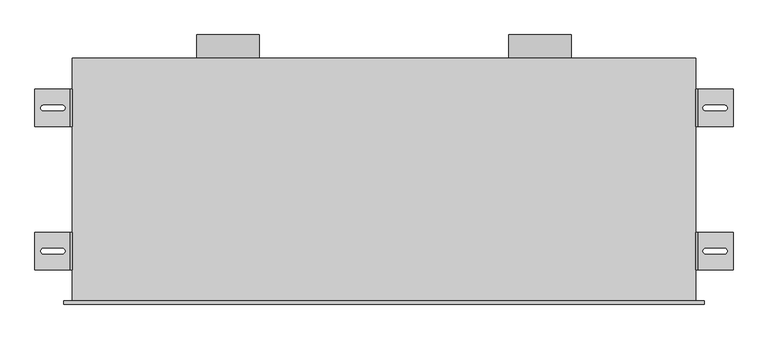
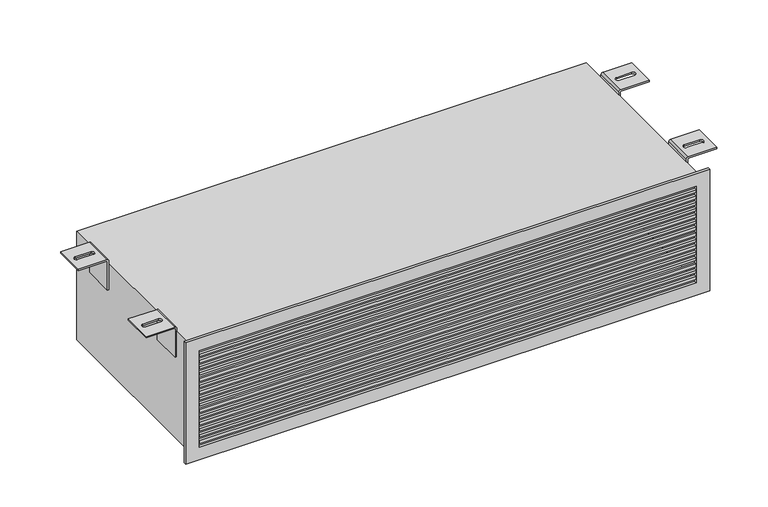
"""IFC4 building model written with IfcOpenShell, lengths in millimetres: air terminal geometry, EOL - Mural - 2 piquages : EOL-M2x100-1000x225-2."""

from ifc_helpers import new_model, si_unit, point, frame, frame_2d, origin, place, context, project, spatial, polyline, circle_curve, ellipse_curve, trimmed, segment, composite_curve, outline, extrude, source, transform, mapped, element, save
from ifc_brep_helpers import plane_surface, cylinder_surface, revolved_surface, extruded_surface, advanced_brep


def air_terminal_9427a1d9(model_context):
    return source(origin(), model_context, "Body", "SolidModel", [
        advanced_brep(
        [(504.0013366, 110.0, 121.5), (560.0, 110.0, 121.5), (560.0, 110.0, 118.5), (504.0, 110.0, 118.5), (503.0, 110.0, 117.5), (503.0, 110.0, 58.5), (500.0, 110.0, 58.5), (500.0, 110.0, 117.4986634), (504.0013366, 50.0, 121.5), (500.0, 50.0, 117.4986634), (500.0, 50.0, 58.5), (503.0, 50.0, 58.5), (503.0, 50.0, 117.5), (504.0, 50.0, 118.5), (560.0, 50.0, 118.5), (560.0, 50.0, 121.5), (546.0287952, 75.4804328, 121.5), (516.0287952, 75.4804328, 121.5), (516.0287952, 84.4804328, 121.5), (546.0287952, 84.4804328, 121.5), (516.0287952, 75.4804328, 118.5), (546.0287952, 75.4804328, 118.5), (546.0287952, 84.4804328, 118.5), (516.0287952, 84.4804328, 118.5)],
        [
            (0, 1),
            (1, 2),
            (2, 3),
            (3, 4, circle_curve(frame((504.0, 110.0, 117.5), z_axis=(0.0, -1.0, 0.0), x_axis=(-1.0000000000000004, 0.0, 0.0)), 1.0)),
            (4, 5),
            (5, 6),
            (6, 7),
            (7, 0, circle_curve(frame((504.0013366, 110.0, 117.4986634), z_axis=(0.0, 1.0, 0.0), x_axis=(-1.0000000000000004, 0.0, 0.0)), 4.0013366)),
            (8, 9, circle_curve(frame((504.0013366, 50.0, 117.4986634), z_axis=(0.0, -1.0, 0.0), x_axis=(-1.0000000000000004, 0.0, 0.0)), 4.0013366)),
            (9, 10),
            (10, 11),
            (11, 12),
            (12, 13, circle_curve(frame((504.0, 50.0, 117.5), z_axis=(0.0, 1.0, 0.0), x_axis=(-1.0000000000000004, 0.0, 0.0)), 1.0)),
            (13, 14),
            (14, 15),
            (15, 8),
            (0, 8),
            (15, 1),
            (16, 17),
            (17, 18, circle_curve(frame((516.0287952, 79.9804328, 121.5), z_axis=(0.0, 0.0, -1.0), x_axis=(0.0, -1.0, 0.0)), 4.5)),
            (18, 19),
            (19, 16, circle_curve(frame((546.0287952, 79.9804328, 121.5), z_axis=(0.0, 0.0, -1.0), x_axis=(0.0, -1.0, 0.0)), 4.5)),
            (14, 2),
            (13, 3),
            (20, 21),
            (21, 22, ellipse_curve(frame((546.0287952, 79.9804328, 118.5), z_axis=(0.0, 0.0, 1.0), x_axis=(0.0, -1.0, 0.0)), 4.5, 4.5)),
            (22, 23),
            (23, 20, ellipse_curve(frame((516.0287952, 79.9804328, 118.5), z_axis=(0.0, 0.0, 1.0), x_axis=(0.0, -1.0, 0.0)), 4.5, 4.5)),
            (12, 4),
            (11, 5),
            (10, 6),
            (9, 7),
            (16, 21),
            (20, 17),
            (19, 22),
            (18, 23),
        ],
        [
            plane_surface(frame((560.0, 110.0, 121.5), z_axis=(0.0, 1.0, 0.0), x_axis=(1.0, 0.0, 0.0))),
            plane_surface(frame((560.0, 50.0, 121.5), z_axis=(0.0, -1.0, 0.0), x_axis=(-1.0, 0.0, 0.0))),
            plane_surface(frame((504.0013366, 110.0, 121.5), z_axis=(0.0, 0.0, 1.0), x_axis=(0.0, -1.0, 0.0))),
            plane_surface(frame((560.0, 110.0, 121.5), z_axis=(1.0, 0.0, 0.0), x_axis=(0.0, -1.0, 0.0))),
            plane_surface(frame((560.0, 110.0, 118.5), z_axis=(0.0, 0.0, -1.0), x_axis=(0.0, -1.0, 0.0))),
            revolved_surface(polyline([(503.0, 50.0, 117.5), (503.0, 110.00000000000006, 117.5)]), (504.0, 50.0, 117.5), (0.0, -1.0000000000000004, 0.0)),
            plane_surface(frame((503.0, 110.0, 117.5), z_axis=(1.0, 0.0, 0.0), x_axis=(0.0, -1.0, 0.0))),
            plane_surface(frame((503.0, 110.0, 58.5), z_axis=(0.0, 0.0, -1.0), x_axis=(0.0, -1.0, 0.0))),
            plane_surface(frame((500.0, 110.0, 58.5), z_axis=(-1.0, 0.0, 0.0), x_axis=(0.0, -1.0, 0.0))),
            cylinder_surface(frame((504.0013366, 50.0, 117.4986634), z_axis=(0.0, 1.0000000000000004, 0.0), x_axis=(-1.0000000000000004, 0.0, 0.0)), 4.0013366),
            plane_surface(frame((516.0287952, 75.4804328, 121.5), z_axis=(0.0, 1.0, 0.0), x_axis=(0.0, 0.0, -1.0))),
            extruded_surface(trimmed(ellipse_curve(frame((546.0287952, 79.9804328, 118.5), z_axis=(0.0, 0.0, 1.0), x_axis=(0.0, -1.0, 0.0)), 4.5, 4.5), [point((546.0287952, 75.4804328, 118.5))], [point((546.0287952, 84.4804328, 118.5))], True, "CARTESIAN"), (0.0, 0.0, -3.0), 3.0),
            plane_surface(frame((546.0287952, 84.4804328, 121.5), z_axis=(0.0, -1.0, 0.0), x_axis=(0.0, 0.0, -1.0))),
            extruded_surface(trimmed(ellipse_curve(frame((516.0287952, 79.9804328, 118.5), z_axis=(0.0, 0.0, 1.0), x_axis=(0.0, -1.0, 0.0)), 4.5, 4.5), [point((516.0287952, 84.4804328, 118.5))], [point((516.0287952, 75.4804328, 118.5))], True, "CARTESIAN"), (0.0, 0.0, -3.0), 3.0),
        ],
        [
            (0, [[1, 2, 3, 4, 5, 6, 7, 8]]),
            (1, [[9, 10, 11, 12, 13, 14, 15, 16]]),
            (2, [[-1, 17, -16, 18], [19, 20, 21, 22]]),
            (3, [[-2, -18, -15, 23]]),
            (4, [[-3, -23, -14, 24], [25, 26, 27, 28]]),
            (5, [[-4, -24, -13, 29]]),
            (6, [[-5, -29, -12, 30]]),
            (7, [[-6, -30, -11, 31]]),
            (8, [[-7, -31, -10, 32]]),
            (9, [[-8, -32, -9, -17]]),
            (10, [[33, -25, 34, -19]]),
            (11, [[-33, -22, 35, -26]]),
            (12, [[-35, -21, 36, -27]]),
            (13, [[-34, -28, -36, -20]]),
        ],
    ),
        advanced_brep(
        [(504.0013366, 340.0, 121.5), (560.0, 340.0, 121.5), (560.0, 340.0, 118.5), (504.0, 340.0, 118.5), (503.0, 340.0, 117.5), (503.0, 340.0, 58.5), (500.0, 340.0, 58.5), (500.0, 340.0, 117.4986634), (504.0013366, 280.0, 121.5), (500.0, 280.0, 117.4986634), (500.0, 280.0, 58.5), (503.0, 280.0, 58.5), (503.0, 280.0, 117.5), (504.0, 280.0, 118.5), (560.0, 280.0, 118.5), (560.0, 280.0, 121.5), (546.0287952, 305.4804328, 121.5), (516.0287952, 305.4804328, 121.5), (516.0287952, 314.4804328, 121.5), (546.0287952, 314.4804328, 121.5), (516.0287952, 305.4804328, 118.5), (546.0287952, 305.4804328, 118.5), (546.0287952, 314.4804328, 118.5), (516.0287952, 314.4804328, 118.5)],
        [
            (0, 1),
            (1, 2),
            (2, 3),
            (3, 4, circle_curve(frame((504.0, 340.0, 117.5), z_axis=(0.0, -1.0, 0.0), x_axis=(-1.0, 0.0, 0.0)), 1.0)),
            (4, 5),
            (5, 6),
            (6, 7),
            (7, 0, circle_curve(frame((504.0013366, 340.0, 117.4986634), z_axis=(0.0, 1.0, 0.0), x_axis=(-1.0, 0.0, 0.0)), 4.0013366)),
            (8, 9, circle_curve(frame((504.0013366, 280.0, 117.4986634), z_axis=(0.0, -1.0, 0.0), x_axis=(-1.0, 0.0, 0.0)), 4.0013366)),
            (9, 10),
            (10, 11),
            (11, 12),
            (12, 13, circle_curve(frame((504.0, 280.0, 117.5), z_axis=(0.0, 1.0, 0.0), x_axis=(-1.0, 0.0, 0.0)), 1.0)),
            (13, 14),
            (14, 15),
            (15, 8),
            (0, 8),
            (15, 1),
            (16, 17),
            (17, 18, circle_curve(frame((516.0287952, 309.9804328, 121.5), z_axis=(0.0, 0.0, -1.0), x_axis=(0.0, -1.0, 0.0)), 4.5)),
            (18, 19),
            (19, 16, circle_curve(frame((546.0287952, 309.9804328, 121.5), z_axis=(0.0, 0.0, -1.0), x_axis=(0.0, -1.0, 0.0)), 4.5)),
            (14, 2),
            (13, 3),
            (20, 21),
            (21, 22, ellipse_curve(frame((546.0287952, 309.9804328, 118.5), z_axis=(0.0, 0.0, 1.0), x_axis=(0.0, -1.0, 0.0)), 4.5, 4.5)),
            (22, 23),
            (23, 20, ellipse_curve(frame((516.0287952, 309.9804328, 118.5), z_axis=(0.0, 0.0, 1.0), x_axis=(0.0, -1.0, 0.0)), 4.5, 4.5)),
            (12, 4),
            (11, 5),
            (10, 6),
            (9, 7),
            (16, 21),
            (20, 17),
            (19, 22),
            (18, 23),
        ],
        [
            plane_surface(frame((560.0, 340.0, 121.5), z_axis=(0.0, 1.0, 0.0), x_axis=(1.0, 0.0, 0.0))),
            plane_surface(frame((560.0, 280.0, 121.5), z_axis=(0.0, -1.0, 0.0), x_axis=(-1.0, 0.0, 0.0))),
            plane_surface(frame((504.0013366, 340.0, 121.5), z_axis=(0.0, 0.0, 1.0), x_axis=(0.0, -1.0, 0.0))),
            plane_surface(frame((560.0, 340.0, 121.5), z_axis=(1.0, 0.0, 0.0), x_axis=(0.0, -1.0, 0.0))),
            plane_surface(frame((560.0, 340.0, 118.5), z_axis=(0.0, 0.0, -1.0), x_axis=(0.0, -1.0, 0.0))),
            revolved_surface(polyline([(503.0, 280.0, 117.5), (503.0, 340.0, 117.5)]), (504.0, 280.0, 117.5), (0.0, -1.0, 0.0)),
            plane_surface(frame((503.0, 340.0, 117.5), z_axis=(1.0, 0.0, 0.0), x_axis=(0.0, -1.0, 0.0))),
            plane_surface(frame((503.0, 340.0, 58.5), z_axis=(0.0, 0.0, -1.0), x_axis=(0.0, -1.0, 0.0))),
            plane_surface(frame((500.0, 340.0, 58.5), z_axis=(-1.0, 0.0, 0.0), x_axis=(0.0, -1.0, 0.0))),
            cylinder_surface(frame((504.0013366, 280.0, 117.4986634), z_axis=(0.0, 1.0, 0.0), x_axis=(-1.0, 0.0, 0.0)), 4.0013366),
            plane_surface(frame((516.0287952, 305.4804328, 121.5), z_axis=(0.0, 1.0, 0.0), x_axis=(0.0, 0.0, -1.0))),
            extruded_surface(trimmed(ellipse_curve(frame((546.0287952, 309.9804328, 118.5), z_axis=(0.0, 0.0, 1.0), x_axis=(0.0, -1.0, 0.0)), 4.5, 4.5), [point((546.0287952, 305.4804328, 118.5))], [point((546.0287952, 314.4804328, 118.5))], True, "CARTESIAN"), (0.0, 0.0, -3.0), 3.0),
            plane_surface(frame((546.0287952, 314.4804328, 121.5), z_axis=(0.0, -1.0, 0.0), x_axis=(0.0, 0.0, -1.0))),
            extruded_surface(trimmed(ellipse_curve(frame((516.0287952, 309.9804328, 118.5), z_axis=(0.0, 0.0, 1.0), x_axis=(0.0, -1.0, 0.0)), 4.5, 4.5), [point((516.0287952, 314.4804328, 118.5))], [point((516.0287952, 305.4804328, 118.5))], True, "CARTESIAN"), (0.0, 0.0, -3.0), 3.0),
        ],
        [
            (0, [[1, 2, 3, 4, 5, 6, 7, 8]]),
            (1, [[9, 10, 11, 12, 13, 14, 15, 16]]),
            (2, [[-1, 17, -16, 18], [19, 20, 21, 22]]),
            (3, [[-2, -18, -15, 23]]),
            (4, [[-3, -23, -14, 24], [25, 26, 27, 28]]),
            (5, [[-4, -24, -13, 29]]),
            (6, [[-5, -29, -12, 30]]),
            (7, [[-6, -30, -11, 31]]),
            (8, [[-7, -31, -10, 32]]),
            (9, [[-8, -32, -9, -17]]),
            (10, [[33, -25, 34, -19]]),
            (11, [[-33, -22, 35, -26]]),
            (12, [[-35, -21, 36, -27]]),
            (13, [[-34, -28, -36, -20]]),
        ],
    ),
        advanced_brep(
        [(-504.0013366, 50.0, 121.5), (-560.0, 50.0, 121.5), (-560.0, 50.0, 118.5), (-504.0, 50.0, 118.5), (-503.0, 50.0, 117.5), (-503.0, 50.0, 58.5), (-500.0, 50.0, 58.5), (-500.0, 50.0, 117.4986634), (-504.0013366, 110.0, 121.5), (-500.0, 110.0, 117.4986634), (-500.0, 110.0, 58.5), (-503.0, 110.0, 58.5), (-503.0, 110.0, 117.5), (-504.0, 110.0, 118.5), (-560.0, 110.0, 118.5), (-560.0, 110.0, 121.5), (-546.0287952, 84.5195672, 121.5), (-516.0287952, 84.5195672, 121.5), (-516.0287952, 75.5195672, 121.5), (-546.0287952, 75.5195672, 121.5), (-516.0287952, 84.5195672, 118.5), (-546.0287952, 84.5195672, 118.5), (-546.0287952, 75.5195672, 118.5), (-516.0287952, 75.5195672, 118.5)],
        [
            (0, 1),
            (1, 2),
            (2, 3),
            (3, 4, circle_curve(frame((-504.0, 50.0, 117.5), z_axis=(0.0, 1.0, 0.0), x_axis=(1.0, 0.0, 0.0)), 1.0)),
            (4, 5),
            (5, 6),
            (6, 7),
            (7, 0, circle_curve(frame((-504.0013366, 50.0, 117.4986634), z_axis=(0.0, -1.0, 0.0), x_axis=(1.0, 0.0, 0.0)), 4.0013366)),
            (8, 9, circle_curve(frame((-504.0013366, 110.0, 117.4986634), z_axis=(0.0, 1.0, 0.0), x_axis=(1.0, 0.0, 0.0)), 4.0013366)),
            (9, 10),
            (10, 11),
            (11, 12),
            (12, 13, circle_curve(frame((-504.0, 110.0, 117.5), z_axis=(0.0, -1.0, 0.0), x_axis=(1.0, 0.0, 0.0)), 1.0)),
            (13, 14),
            (14, 15),
            (15, 8),
            (0, 8),
            (15, 1),
            (16, 17),
            (17, 18, circle_curve(frame((-516.0287952, 80.0195672, 121.5), z_axis=(0.0, 0.0, -1.0), x_axis=(0.0, 1.0, 0.0)), 4.5)),
            (18, 19),
            (19, 16, circle_curve(frame((-546.0287952, 80.0195672, 121.5), z_axis=(0.0, 0.0, -1.0), x_axis=(0.0, 1.0, 0.0)), 4.5)),
            (14, 2),
            (13, 3),
            (20, 21),
            (21, 22, ellipse_curve(frame((-546.0287952, 80.0195672, 118.5), z_axis=(0.0, 0.0, 1.0), x_axis=(0.0, 1.0, 0.0)), 4.5, 4.5)),
            (22, 23),
            (23, 20, ellipse_curve(frame((-516.0287952, 80.0195672, 118.5), z_axis=(0.0, 0.0, 1.0), x_axis=(0.0, 1.0, 0.0)), 4.5, 4.5)),
            (12, 4),
            (11, 5),
            (10, 6),
            (9, 7),
            (16, 21),
            (20, 17),
            (19, 22),
            (18, 23),
        ],
        [
            plane_surface(frame((-560.0, 50.0, 121.5), z_axis=(0.0, -1.0, 0.0), x_axis=(-1.0, 0.0, 0.0))),
            plane_surface(frame((-560.0, 110.0, 121.5), z_axis=(0.0, 1.0, 0.0), x_axis=(1.0, 0.0, 0.0))),
            plane_surface(frame((-504.0013366, 50.0, 121.5), z_axis=(0.0, 0.0, 1.0), x_axis=(0.0, 1.0, 0.0))),
            plane_surface(frame((-560.0, 50.0, 121.5), z_axis=(-1.0, 0.0, 0.0), x_axis=(0.0, 1.0, 0.0))),
            plane_surface(frame((-560.0, 50.0, 118.5), z_axis=(0.0, 0.0, -1.0), x_axis=(0.0, 1.0, 0.0))),
            revolved_surface(polyline([(-503.0, 110.0, 117.5), (-503.0, 50.0, 117.5)]), (-504.0, 110.0, 117.5), (0.0, 1.0, 0.0)),
            plane_surface(frame((-503.0, 50.0, 117.5), z_axis=(-1.0, 0.0, 0.0), x_axis=(0.0, 1.0, 0.0))),
            plane_surface(frame((-503.0, 50.0, 58.5), z_axis=(0.0, 0.0, -1.0), x_axis=(0.0, 1.0, 0.0))),
            plane_surface(frame((-500.0, 50.0, 58.5), z_axis=(1.0, 0.0, 0.0), x_axis=(0.0, 1.0, 0.0))),
            cylinder_surface(frame((-504.0013366, 110.0, 117.4986634), z_axis=(0.0, -1.0, 0.0), x_axis=(1.0, 0.0, 0.0)), 4.0013366),
            plane_surface(frame((-516.0287952, 84.5195672, 121.5), z_axis=(0.0, -1.0, 0.0), x_axis=(0.0, 0.0, -1.0))),
            extruded_surface(trimmed(ellipse_curve(frame((-546.0287952, 80.0195672, 118.5), z_axis=(0.0, 0.0, 1.0), x_axis=(0.0, 1.0, 0.0)), 4.5, 4.5), [point((-546.0287952, 84.5195672, 118.5))], [point((-546.0287952, 75.5195672, 118.5))], True, "CARTESIAN"), (0.0, 0.0, -3.0), 3.0),
            plane_surface(frame((-546.0287952, 75.5195672, 121.5), z_axis=(0.0, 1.0, 0.0), x_axis=(0.0, 0.0, -1.0))),
            extruded_surface(trimmed(ellipse_curve(frame((-516.0287952, 80.0195672, 118.5), z_axis=(0.0, 0.0, 1.0), x_axis=(0.0, 1.0, 0.0)), 4.5, 4.5), [point((-516.0287952, 75.5195672, 118.5))], [point((-516.0287952, 84.5195672, 118.5))], True, "CARTESIAN"), (0.0, 0.0, -3.0), 3.0),
        ],
        [
            (0, [[1, 2, 3, 4, 5, 6, 7, 8]]),
            (1, [[9, 10, 11, 12, 13, 14, 15, 16]]),
            (2, [[-1, 17, -16, 18], [19, 20, 21, 22]]),
            (3, [[-2, -18, -15, 23]]),
            (4, [[-3, -23, -14, 24], [25, 26, 27, 28]]),
            (5, [[-4, -24, -13, 29]]),
            (6, [[-5, -29, -12, 30]]),
            (7, [[-6, -30, -11, 31]]),
            (8, [[-7, -31, -10, 32]]),
            (9, [[-8, -32, -9, -17]]),
            (10, [[33, -25, 34, -19]]),
            (11, [[-33, -22, 35, -26]]),
            (12, [[-35, -21, 36, -27]]),
            (13, [[-34, -28, -36, -20]]),
        ],
    ),
        advanced_brep(
        [(-504.0013366, 280.0, 121.5), (-560.0, 280.0, 121.5), (-560.0, 280.0, 118.5), (-504.0, 280.0, 118.5), (-503.0, 280.0, 117.5), (-503.0, 280.0, 58.5), (-500.0, 280.0, 58.5), (-500.0, 280.0, 117.4986634), (-504.0013366, 340.0, 121.5), (-500.0, 340.0, 117.4986634), (-500.0, 340.0, 58.5), (-503.0, 340.0, 58.5), (-503.0, 340.0, 117.5), (-504.0, 340.0, 118.5), (-560.0, 340.0, 118.5), (-560.0, 340.0, 121.5), (-546.0287952, 314.5195672, 121.5), (-516.0287952, 314.5195672, 121.5), (-516.0287952, 305.5195672, 121.5), (-546.0287952, 305.5195672, 121.5), (-516.0287952, 314.5195672, 118.5), (-546.0287952, 314.5195672, 118.5), (-546.0287952, 305.5195672, 118.5), (-516.0287952, 305.5195672, 118.5)],
        [
            (0, 1),
            (1, 2),
            (2, 3),
            (3, 4, circle_curve(frame((-504.0, 280.0, 117.5), z_axis=(0.0, 1.0, 0.0), x_axis=(1.0, 0.0, 0.0)), 1.0)),
            (4, 5),
            (5, 6),
            (6, 7),
            (7, 0, circle_curve(frame((-504.0013366, 280.0, 117.4986634), z_axis=(0.0, -1.0, 0.0), x_axis=(1.0, 0.0, 0.0)), 4.0013366)),
            (8, 9, circle_curve(frame((-504.0013366, 340.0, 117.4986634), z_axis=(0.0, 1.0, 0.0), x_axis=(1.0, 0.0, 0.0)), 4.0013366)),
            (9, 10),
            (10, 11),
            (11, 12),
            (12, 13, circle_curve(frame((-504.0, 340.0, 117.5), z_axis=(0.0, -1.0, 0.0), x_axis=(1.0, 0.0, 0.0)), 1.0)),
            (13, 14),
            (14, 15),
            (15, 8),
            (0, 8),
            (15, 1),
            (16, 17),
            (17, 18, circle_curve(frame((-516.0287952, 310.0195672, 121.5), z_axis=(0.0, 0.0, -1.0), x_axis=(0.0, 1.0, 0.0)), 4.5)),
            (18, 19),
            (19, 16, circle_curve(frame((-546.0287952, 310.0195672, 121.5), z_axis=(0.0, 0.0, -1.0), x_axis=(0.0, 1.0, 0.0)), 4.5)),
            (14, 2),
            (13, 3),
            (20, 21),
            (21, 22, ellipse_curve(frame((-546.0287952, 310.0195672, 118.5), z_axis=(0.0, 0.0, 1.0), x_axis=(0.0, 1.0, 0.0)), 4.5, 4.5)),
            (22, 23),
            (23, 20, ellipse_curve(frame((-516.0287952, 310.0195672, 118.5), z_axis=(0.0, 0.0, 1.0), x_axis=(0.0, 1.0, 0.0)), 4.5, 4.5)),
            (12, 4),
            (11, 5),
            (10, 6),
            (9, 7),
            (16, 21),
            (20, 17),
            (19, 22),
            (18, 23),
        ],
        [
            plane_surface(frame((-560.0, 280.0, 121.5), z_axis=(0.0, -1.0, 0.0), x_axis=(-1.0, 0.0, 0.0))),
            plane_surface(frame((-560.0, 340.0, 121.5), z_axis=(0.0, 1.0, 0.0), x_axis=(1.0, 0.0, 0.0))),
            plane_surface(frame((-504.0013366, 280.0, 121.5), z_axis=(0.0, 0.0, 1.0), x_axis=(0.0, 1.0, 0.0))),
            plane_surface(frame((-560.0, 280.0, 121.5), z_axis=(-1.0, 0.0, 0.0), x_axis=(0.0, 1.0, 0.0))),
            plane_surface(frame((-560.0, 280.0, 118.5), z_axis=(0.0, 0.0, -1.0), x_axis=(0.0, 1.0, 0.0))),
            revolved_surface(polyline([(-503.0, 340.0, 117.5), (-503.0, 280.0, 117.5)]), (-504.0, 340.0, 117.5), (0.0, 1.0, 0.0)),
            plane_surface(frame((-503.0, 280.0, 117.5), z_axis=(-1.0, 0.0, 0.0), x_axis=(0.0, 1.0, 0.0))),
            plane_surface(frame((-503.0, 280.0, 58.5), z_axis=(0.0, 0.0, -1.0), x_axis=(0.0, 1.0, 0.0))),
            plane_surface(frame((-500.0, 280.0, 58.5), z_axis=(1.0, 0.0, 0.0), x_axis=(0.0, 1.0, 0.0))),
            cylinder_surface(frame((-504.0013366, 340.0, 117.4986634), z_axis=(0.0, -1.0, 0.0), x_axis=(1.0, 0.0, 0.0)), 4.0013366),
            plane_surface(frame((-516.0287952, 314.5195672, 121.5), z_axis=(0.0, -1.0, 0.0), x_axis=(0.0, 0.0, -1.0))),
            extruded_surface(trimmed(ellipse_curve(frame((-546.0287952, 310.0195672, 118.5), z_axis=(0.0, 0.0, 1.0), x_axis=(0.0, 1.0, 0.0)), 4.5, 4.5), [point((-546.0287952, 314.5195672, 118.5))], [point((-546.0287952, 305.5195672, 118.5))], True, "CARTESIAN"), (0.0, 0.0, -3.0), 3.0),
            plane_surface(frame((-546.0287952, 305.5195672, 121.5), z_axis=(0.0, 1.0, 0.0), x_axis=(0.0, 0.0, -1.0))),
            extruded_surface(trimmed(ellipse_curve(frame((-516.0287952, 310.0195672, 118.5), z_axis=(0.0, 0.0, 1.0), x_axis=(0.0, 1.0, 0.0)), 4.5, 4.5), [point((-516.0287952, 305.5195672, 118.5))], [point((-516.0287952, 314.5195672, 118.5))], True, "CARTESIAN"), (0.0, 0.0, -3.0), 3.0),
        ],
        [
            (0, [[1, 2, 3, 4, 5, 6, 7, 8]]),
            (1, [[9, 10, 11, 12, 13, 14, 15, 16]]),
            (2, [[-1, 17, -16, 18], [19, 20, 21, 22]]),
            (3, [[-2, -18, -15, 23]]),
            (4, [[-3, -23, -14, 24], [25, 26, 27, 28]]),
            (5, [[-4, -24, -13, 29]]),
            (6, [[-5, -29, -12, 30]]),
            (7, [[-6, -30, -11, 31]]),
            (8, [[-7, -31, -10, 32]]),
            (9, [[-8, -32, -9, -17]]),
            (10, [[33, -25, 34, -19]]),
            (11, [[-33, -22, 35, -26]]),
            (12, [[-35, -21, 36, -27]]),
            (13, [[-34, -28, -36, -20]]),
        ],
    ),
        extrude(outline(composite_curve([segment(trimmed(circle_curve(frame_2d((0.0, 250.0)), 50.0), [point((0.0, 200.0))], [point((0.0, 300.0))], False, "CARTESIAN"), True, "CONTINUOUS"), segment(trimmed(circle_curve(frame_2d((0.0, 250.0)), 50.0), [point((0.0, 300.0))], [point((0.0, 200.0))], False, "CARTESIAN"), True, "CONTINUOUS")], self_intersect=False), holes=[composite_curve([segment(trimmed(circle_curve(frame_2d((0.0, 250.0)), 49.0), [point((0.0, 299.0))], [point((0.0, 201.0))], True, "CARTESIAN"), True, "CONTINUOUS"), segment(trimmed(circle_curve(frame_2d((0.0, 250.0)), 49.0), [point((0.0, 201.0))], [point((0.0, 299.0))], True, "CARTESIAN"), True, "CONTINUOUS")], self_intersect=False)]), frame((0.0, 390.0, 0.0), z_axis=(0.0, 1.0, 0.0), x_axis=(0.0, 0.0, 1.0)), (0.0, 0.0, 1.0), 37.5),
        extrude(outline(composite_curve([segment(trimmed(circle_curve(frame_2d((0.0, -250.0)), 50.0), [point((0.0, -300.0))], [point((0.0, -200.0))], False, "CARTESIAN"), True, "CONTINUOUS"), segment(trimmed(circle_curve(frame_2d((0.0, -250.0)), 50.0), [point((0.0, -200.0))], [point((0.0, -300.0))], False, "CARTESIAN"), True, "CONTINUOUS")], self_intersect=False), holes=[composite_curve([segment(trimmed(circle_curve(frame_2d((0.0, -250.0)), 49.0), [point((0.0, -201.0))], [point((0.0, -299.0))], True, "CARTESIAN"), True, "CONTINUOUS"), segment(trimmed(circle_curve(frame_2d((0.0, -250.0)), 49.0), [point((0.0, -299.0))], [point((0.0, -201.0))], True, "CARTESIAN"), True, "CONTINUOUS")], self_intersect=False)]), frame((0.0, 390.0, 0.0), z_axis=(0.0, 1.0, 0.0), x_axis=(0.0, 0.0, 1.0)), (0.0, 0.0, 1.0), 37.5),
        extrude(outline(polyline([(487.5, 0.0), (487.5, -5.0), (-487.5, -5.0), (-487.5, 0.0), (487.5, 0.0)])), frame((0.0, 0.0, 87.15), z_axis=(0.0, 0.0, 1.0), x_axis=(1.0, 0.0, 0.0)), (0.0, 0.0, 1.0), 5.6),
        extrude(outline(polyline([(487.5, 0.0), (487.5, -5.0), (-487.5, -5.0), (-487.5, 0.0), (487.5, 0.0)])), frame((0.0, 0.0, 74.3), z_axis=(0.0, 0.0, 1.0), x_axis=(1.0, 0.0, 0.0)), (0.0, 0.0, 1.0), 5.6),
        extrude(outline(polyline([(487.5, 0.0), (487.5, -5.0), (-487.5, -5.0), (-487.5, 0.0), (487.5, 0.0)])), frame((0.0, 0.0, 61.45), z_axis=(0.0, 0.0, 1.0), x_axis=(1.0, 0.0, 0.0)), (0.0, 0.0, 1.0), 5.6),
        extrude(outline(polyline([(487.5, 0.0), (487.5, -5.0), (-487.5, -5.0), (-487.5, 0.0), (487.5, 0.0)])), frame((0.0, 0.0, 48.6), z_axis=(0.0, 0.0, 1.0), x_axis=(1.0, 0.0, 0.0)), (0.0, 0.0, 1.0), 5.6),
        extrude(outline(polyline([(487.5, 0.0), (487.5, -5.0), (-487.5, -5.0), (-487.5, 0.0), (487.5, 0.0)])), frame((0.0, 0.0, 35.75), z_axis=(0.0, 0.0, 1.0), x_axis=(1.0, 0.0, 0.0)), (0.0, 0.0, 1.0), 5.6),
        extrude(outline(polyline([(487.5, 0.0), (487.5, -5.0), (-487.5, -5.0), (-487.5, 0.0), (487.5, 0.0)])), frame((0.0, 0.0, 22.9), z_axis=(0.0, 0.0, 1.0), x_axis=(1.0, 0.0, 0.0)), (0.0, 0.0, 1.0), 5.6),
        extrude(outline(polyline([(487.5, 0.0), (487.5, -5.0), (-487.5, -5.0), (-487.5, 0.0), (487.5, 0.0)])), frame((0.0, 0.0, 10.05), z_axis=(0.0, 0.0, 1.0), x_axis=(1.0, 0.0, 0.0)), (0.0, 0.0, 1.0), 5.6),
        extrude(outline(polyline([(487.5, 0.0), (487.5, -5.0), (-487.5, -5.0), (-487.5, 0.0), (487.5, 0.0)])), frame((0.0, 0.0, -2.8), z_axis=(0.0, 0.0, 1.0), x_axis=(1.0, 0.0, 0.0)), (0.0, 0.0, 1.0), 5.6),
        extrude(outline(polyline([(487.5, 0.0), (487.5, -5.0), (-487.5, -5.0), (-487.5, 0.0), (487.5, 0.0)])), frame((0.0, 0.0, -15.65), z_axis=(0.0, 0.0, 1.0), x_axis=(1.0, 0.0, 0.0)), (0.0, 0.0, 1.0), 5.6),
        extrude(outline(polyline([(487.5, 0.0), (487.5, -5.0), (-487.5, -5.0), (-487.5, 0.0), (487.5, 0.0)])), frame((0.0, 0.0, -28.5), z_axis=(0.0, 0.0, 1.0), x_axis=(1.0, 0.0, 0.0)), (0.0, 0.0, 1.0), 5.6),
        extrude(outline(polyline([(487.5, 0.0), (487.5, -5.0), (-487.5, -5.0), (-487.5, 0.0), (487.5, 0.0)])), frame((0.0, 0.0, -41.35), z_axis=(0.0, 0.0, 1.0), x_axis=(1.0, 0.0, 0.0)), (0.0, 0.0, 1.0), 5.6),
        extrude(outline(polyline([(487.5, 0.0), (487.5, -5.0), (-487.5, -5.0), (-487.5, 0.0), (487.5, 0.0)])), frame((0.0, 0.0, -54.2), z_axis=(0.0, 0.0, 1.0), x_axis=(1.0, 0.0, 0.0)), (0.0, 0.0, 1.0), 5.6),
        extrude(outline(polyline([(487.5, 0.0), (487.5, -5.0), (-487.5, -5.0), (-487.5, 0.0), (487.5, 0.0)])), frame((0.0, 0.0, -67.05), z_axis=(0.0, 0.0, 1.0), x_axis=(1.0, 0.0, 0.0)), (0.0, 0.0, 1.0), 5.6),
        extrude(outline(polyline([(487.5, 0.0), (487.5, -5.0), (-487.5, -5.0), (-487.5, 0.0), (487.5, 0.0)])), frame((0.0, 0.0, -79.9), z_axis=(0.0, 0.0, 1.0), x_axis=(1.0, 0.0, 0.0)), (0.0, 0.0, 1.0), 5.6),
        extrude(outline(polyline([(487.5, 0.0), (487.5, -5.0), (-487.5, -5.0), (-487.5, 0.0), (487.5, 0.0)])), frame((0.0, 0.0, -92.75), z_axis=(0.0, 0.0, 1.0), x_axis=(1.0, 0.0, 0.0)), (0.0, 0.0, 1.0), 5.6),
        extrude(outline(polyline([(126.0, 514.0), (126.0, -514.0), (-126.0, -514.0), (-126.0, 514.0), (126.0, 514.0)]), holes=[polyline([(100.0, 487.5), (-100.0, 487.5), (-100.0, -487.5), (100.0, -487.5), (100.0, 487.5)])]), frame((0.0, -5.0, 0.0), z_axis=(0.0, 1.0, 0.0), x_axis=(0.0, 0.0, 1.0)), (0.0, 0.0, 1.0), 5.0),
        advanced_brep(
        [(500.0, 390.0, 112.5), (-500.0, 390.0, 112.5), (-500.0, 0.0, 112.5), (500.0, 0.0, 112.5), (500.0, 390.0, -112.5), (500.0, 0.0, -112.5), (-500.0, 0.0, -112.5), (-500.0, 390.0, -112.5), (201.0, 390.0, 0.0), (299.0, 390.0, 0.0), (-299.0, 390.0, 0.0), (-201.0, 390.0, 0.0), (-495.0, 0.0, 107.5), (495.0, 0.0, 107.5), (495.0, 0.0, -107.5), (-495.0, 0.0, -107.5), (495.0, 385.0, 107.5), (-495.0, 385.0, 107.5), (495.0, 385.0, -107.5), (-495.0, 385.0, -107.5), (299.0, 385.0, 0.0), (201.0, 385.0, 0.0), (-201.0, 385.0, 0.0), (-299.0, 385.0, 0.0)],
        [
            (0, 1),
            (1, 2),
            (2, 3),
            (3, 0),
            (4, 5),
            (5, 6),
            (6, 7),
            (7, 4),
            (0, 4),
            (7, 1),
            (8, 9, circle_curve(frame((250.0, 390.0, 0.0), z_axis=(0.0, -1.0, 0.0), x_axis=(1.0, 0.0, 0.0)), 49.0)),
            (9, 8, circle_curve(frame((250.0, 390.0, 0.0), z_axis=(0.0, -1.0, 0.0), x_axis=(1.0, 0.0, 0.0)), 49.0)),
            (10, 11, circle_curve(frame((-250.0, 390.0, 0.0), z_axis=(0.0, -1.0, 0.0), x_axis=(1.0, 0.0, 0.0)), 49.0)),
            (11, 10, circle_curve(frame((-250.0, 390.0, 0.0), z_axis=(0.0, -1.0, 0.0), x_axis=(1.0, 0.0, 0.0)), 49.0)),
            (6, 2),
            (5, 3),
            (12, 13),
            (13, 14),
            (14, 15),
            (15, 12),
            (16, 13),
            (12, 17),
            (17, 16),
            (18, 19),
            (19, 15),
            (14, 18),
            (17, 19),
            (18, 16),
            (20, 21, circle_curve(frame((250.0, 385.0, 0.0), z_axis=(0.0, 1.0, 0.0), x_axis=(1.0, 0.0, 0.0)), 49.0)),
            (21, 20, circle_curve(frame((250.0, 385.0, 0.0), z_axis=(0.0, 1.0, 0.0), x_axis=(1.0, 0.0, 0.0)), 49.0)),
            (22, 23, circle_curve(frame((-250.0, 385.0, 0.0), z_axis=(0.0, 1.0, 0.0), x_axis=(1.0, 0.0, 0.0)), 49.0)),
            (23, 22, circle_curve(frame((-250.0, 385.0, 0.0), z_axis=(0.0, 1.0, 0.0), x_axis=(1.0, 0.0, 0.0)), 49.0)),
            (8, 21),
            (20, 9),
            (10, 23),
            (22, 11),
        ],
        [
            plane_surface(frame((-500.0, 390.0, 112.5), z_axis=(0.0, 0.0, 1.0), x_axis=(-1.0, 0.0, 0.0))),
            plane_surface(frame((-500.0, 390.0, -112.5), z_axis=(0.0, 0.0, -1.0), x_axis=(1.0, 0.0, 0.0))),
            plane_surface(frame((500.0, 390.0, 112.5), z_axis=(0.0, 1.0, 0.0), x_axis=(0.0, 0.0, -1.0))),
            plane_surface(frame((-500.0, 390.0, 112.5), z_axis=(-1.0, 0.0, 0.0), x_axis=(0.0, 0.0, -1.0))),
            plane_surface(frame((-500.0, 0.0, 112.5), z_axis=(0.0, -1.0, 0.0), x_axis=(0.0, 0.0, -1.0))),
            plane_surface(frame((500.0, 0.0, 112.5), z_axis=(1.0, 0.0, 0.0), x_axis=(0.0, 0.0, -1.0))),
            plane_surface(frame((-495.0, 385.0, 107.5), z_axis=(0.0, 0.0, -1.0), x_axis=(-1.0, 0.0, 0.0))),
            plane_surface(frame((-495.0, 385.0, -107.5), z_axis=(0.0, 0.0, 1.0), x_axis=(1.0, 0.0, 0.0))),
            plane_surface(frame((495.0, 385.0, 107.5), z_axis=(0.0, -1.0, 0.0), x_axis=(0.0, 0.0, -1.0))),
            plane_surface(frame((-495.0, 385.0, 107.5), z_axis=(1.0, 0.0, 0.0), x_axis=(0.0, 0.0, -1.0))),
            plane_surface(frame((495.0, 0.0, 107.5), z_axis=(-1.0, 0.0, 0.0), x_axis=(0.0, 0.0, -1.0))),
            revolved_surface(polyline([(299.0, 385.0, 0.0), (299.0, 390.0, 0.0)]), (250.0, 427.5, 0.0), (0.0, -1.0, 0.0)),
            revolved_surface(polyline([(-201.0, 385.0, 0.0), (-201.0, 390.0, 0.0)]), (-250.0, 0.0, 0.0), (0.0, -1.0, 0.0)),
        ],
        [
            (0, [[1, 2, 3, 4]]),
            (1, [[5, 6, 7, 8]]),
            (2, [[-1, 9, -8, 10], [11, 12], [13, 14]]),
            (3, [[-2, -10, -7, 15]]),
            (4, [[-3, -15, -6, 16], [17, 18, 19, 20]]),
            (5, [[-4, -16, -5, -9]]),
            (6, [[21, -17, 22, 23]]),
            (7, [[24, 25, -19, 26]]),
            (8, [[-23, 27, -24, 28], [29, 30], [31, 32]]),
            (9, [[-22, -20, -25, -27]]),
            (10, [[-21, -28, -26, -18]]),
            (11, [[33, -29, 34, -11]]),
            (11, [[-33, -12, -34, -30]]),
            (12, [[35, -31, 36, -13]]),
            (12, [[-35, -14, -36, -32]]),
        ],
    ),
    ])


if __name__ == "__main__":
    model = new_model("IFC4")
    model_context = context("Model", 3, world=origin())
    ifc_project = project(units=[si_unit("LENGTHUNIT", "METRE", prefix="MILLI")], contexts=[model_context])
    site = spatial("IfcSite", under=ifc_project)
    building = spatial("IfcBuilding", under=site)
    placement = place(None, origin())
    air_terminal_shape = air_terminal_9427a1d9(model_context)
    element("IfcAirTerminal", 1, ObjectType="EOL - Mural - 2 piquages : EOL-M2x100-1000x225-2", at=placement, inside=building, context=model_context, shape_type="MappedRepresentation", body=[
        mapped(air_terminal_shape, transform((0.0, 0.0, 0.0), x_axis=(1.0, 0.0, 0.0), y_axis=(0.0, 1.0, 0.0), z_axis=(0.0, 0.0, 1.0))),
    ])
    save(model, "model.ifc")
